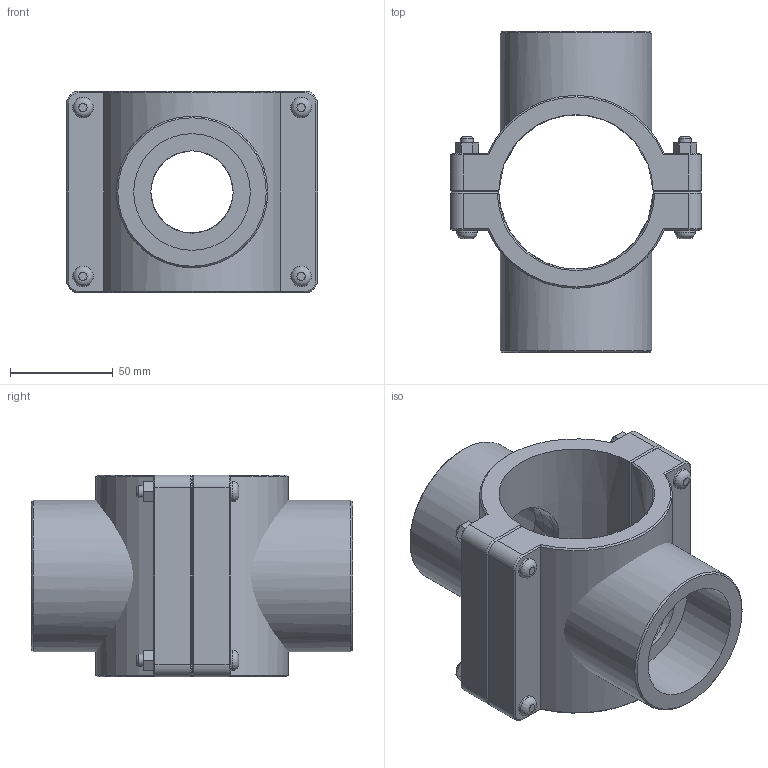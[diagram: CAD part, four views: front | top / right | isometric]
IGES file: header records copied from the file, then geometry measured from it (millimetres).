
Global section: file name: 161760075020_161860075020.ipt; native system: Autodesk Inventor 2015; preprocessor: unknown; author: KIM; date: 20170618.093721; units: millimetre
Bounding box: 122 x 156 x 98 mm (x, y, z)
Volume: 520455.2 mm3; surface area: 120281.1 mm2
Topology: 3 solids, 3 shells, 151 faces, 350 edges, 221 vertices
Faces by surface type: plane 84, cone 26, cylinder 24, revolution 17
Full cylindrical faces by diameter (mm): 6 x4, 10 x8, 73.653 x2
